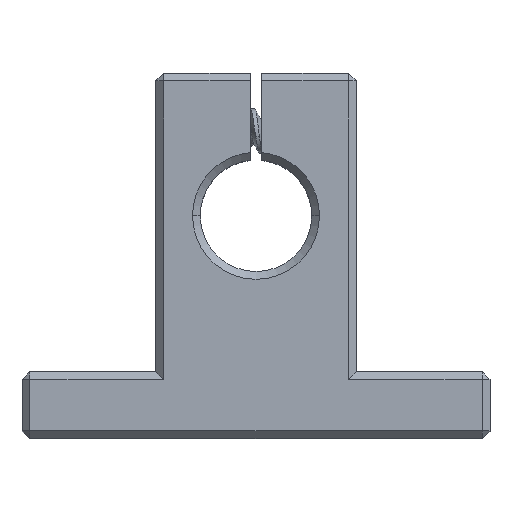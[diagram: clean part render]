
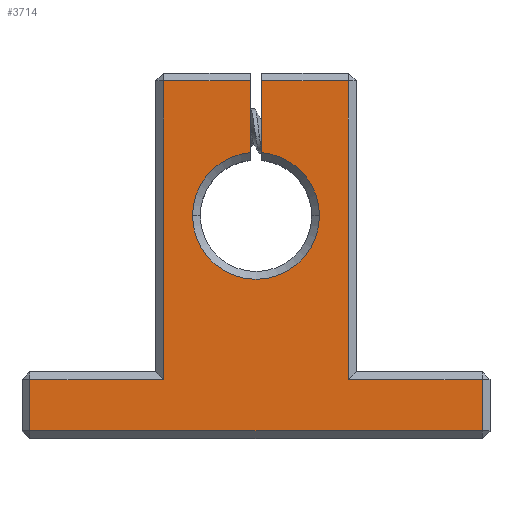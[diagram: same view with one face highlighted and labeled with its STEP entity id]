
A CAD part, top view. The second image highlights one B-rep face of the part: STEP entity #3714.
In plain terms, the highlighted planar face has unit normal (0, 0, 1).
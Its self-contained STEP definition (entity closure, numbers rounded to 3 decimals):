
#20 = CARTESIAN_POINT ( 'NONE',  ( -21., 5.3, 14. ) ) ;
#50 = EDGE_CURVE ( 'NONE', #4398, #502, #4135, .T. ) ;
#97 = CARTESIAN_POINT ( 'NONE',  ( 0.5, 25.678, 14. ) ) ;
#200 = VECTOR ( 'NONE', #5617, 1000. ) ;
#203 = DIRECTION ( 'NONE',  ( 0., 0., -1. ) ) ;
#342 = LINE ( 'NONE', #1608, #3188 ) ;
#360 = EDGE_CURVE ( 'NONE', #502, #2663, #6870, .T. ) ;
#412 = DIRECTION ( 'NONE',  ( 0., -1., 0. ) ) ;
#423 = CARTESIAN_POINT ( 'NONE',  ( 21., 0.7, 14. ) ) ;
#502 = VERTEX_POINT ( 'NONE', #3370 ) ;
#526 = CARTESIAN_POINT ( 'NONE',  ( 0., 20., 14. ) ) ;
#734 = VECTOR ( 'NONE', #3717, 1000. ) ;
#765 = AXIS2_PLACEMENT_3D ( 'NONE', #526, #4540, #1112 ) ;
#809 = LINE ( 'NONE', #2886, #5043 ) ;
#842 = EDGE_CURVE ( 'NONE', #2259, #1766, #873, .T. ) ;
#843 = DIRECTION ( 'NONE',  ( -1., 0., 0. ) ) ;
#873 = LINE ( 'NONE', #3208, #5289 ) ;
#983 = VERTEX_POINT ( 'NONE', #7263 ) ;
#993 = CARTESIAN_POINT ( 'NONE',  ( 0.5, 32.1, 14. ) ) ;
#1093 = ORIENTED_EDGE ( 'NONE', *, *, #842, .T. ) ;
#1108 = EDGE_CURVE ( 'NONE', #983, #6537, #342, .T. ) ;
#1112 = DIRECTION ( 'NONE',  ( 1., 0., 0. ) ) ;
#1119 = LINE ( 'NONE', #20, #2447 ) ;
#1210 = DIRECTION ( 'NONE',  ( 0., 1., 0. ) ) ;
#1237 = EDGE_CURVE ( 'NONE', #1766, #4503, #5913, .T. ) ;
#1546 = VECTOR ( 'NONE', #412, 1000. ) ;
#1608 = CARTESIAN_POINT ( 'NONE',  ( -9., 32.1, 14. ) ) ;
#1766 = VERTEX_POINT ( 'NONE', #97 ) ;
#1799 = CARTESIAN_POINT ( 'NONE',  ( 20.3, 5.3, 14. ) ) ;
#1839 = CARTESIAN_POINT ( 'NONE',  ( 20.3, 0.7, 14. ) ) ;
#1936 = VERTEX_POINT ( 'NONE', #6776 ) ;
#2019 = CARTESIAN_POINT ( 'NONE',  ( 0., 20., 14. ) ) ;
#2089 = EDGE_CURVE ( 'NONE', #3425, #4398, #6477, .T. ) ;
#2173 = DIRECTION ( 'NONE',  ( -1., 0., 0. ) ) ;
#2259 = VERTEX_POINT ( 'NONE', #993 ) ;
#2289 = EDGE_CURVE ( 'NONE', #4734, #3425, #6110, .T. ) ;
#2298 = CARTESIAN_POINT ( 'NONE',  ( 8.3, 32.8, 14. ) ) ;
#2426 = ORIENTED_EDGE ( 'NONE', *, *, #4979, .T. ) ;
#2447 = VECTOR ( 'NONE', #4034, 1000. ) ;
#2573 = DIRECTION ( 'NONE',  ( 0., 0., -1. ) ) ;
#2579 = DIRECTION ( 'NONE',  ( 0., 0., 1. ) ) ;
#2663 = VERTEX_POINT ( 'NONE', #3175 ) ;
#2826 = DIRECTION ( 'NONE',  ( 0., 1., 0. ) ) ;
#2859 = DIRECTION ( 'NONE',  ( 0., 1., 0. ) ) ;
#2886 = CARTESIAN_POINT ( 'NONE',  ( -0.5, 32.8, 14. ) ) ;
#3051 = LINE ( 'NONE', #3253, #1546 ) ;
#3083 = CARTESIAN_POINT ( 'NONE',  ( -8.3, 6., 14. ) ) ;
#3122 = CARTESIAN_POINT ( 'NONE',  ( 0.5, 32.1, 14. ) ) ;
#3175 = CARTESIAN_POINT ( 'NONE',  ( 8.3, 32.1, 14. ) ) ;
#3188 = VECTOR ( 'NONE', #2173, 1000. ) ;
#3208 = CARTESIAN_POINT ( 'NONE',  ( 0.5, 24.975, 14. ) ) ;
#3222 = ORIENTED_EDGE ( 'NONE', *, *, #6478, .T. ) ;
#3236 = CARTESIAN_POINT ( 'NONE',  ( -20.3, 5.3, 14. ) ) ;
#3249 = FACE_OUTER_BOUND ( 'NONE', #5083, .T. ) ;
#3253 = CARTESIAN_POINT ( 'NONE',  ( -20.3, 0., 14. ) ) ;
#3370 = CARTESIAN_POINT ( 'NONE',  ( 8.3, 5.3, 14. ) ) ;
#3425 = VERTEX_POINT ( 'NONE', #1839 ) ;
#3551 = EDGE_CURVE ( 'NONE', #4926, #7159, #5336, .T. ) ;
#3569 = CARTESIAN_POINT ( 'NONE',  ( 5.7, 20., 14. ) ) ;
#3628 = CARTESIAN_POINT ( 'NONE',  ( 0., 20., 14. ) ) ;
#3701 = CARTESIAN_POINT ( 'NONE',  ( -8.3, 32.1, 14. ) ) ;
#3714 = ADVANCED_FACE ( 'NONE', ( #3249 ), #4885, .T. ) ;
#3717 = DIRECTION ( 'NONE',  ( -1., 0., 0. ) ) ;
#3844 = AXIS2_PLACEMENT_3D ( 'NONE', #6029, #2573, #6585 ) ;
#4034 = DIRECTION ( 'NONE',  ( -1., 0., 0. ) ) ;
#4075 = ORIENTED_EDGE ( 'NONE', *, *, #360, .T. ) ;
#4096 = ORIENTED_EDGE ( 'NONE', *, *, #5130, .T. ) ;
#4135 = LINE ( 'NONE', #4258, #5658 ) ;
#4201 = DIRECTION ( 'NONE',  ( 1., 0., 0. ) ) ;
#4236 = ORIENTED_EDGE ( 'NONE', *, *, #5366, .T. ) ;
#4258 = CARTESIAN_POINT ( 'NONE',  ( 9., 5.3, 14. ) ) ;
#4398 = VERTEX_POINT ( 'NONE', #1799 ) ;
#4417 = EDGE_CURVE ( 'NONE', #1936, #4725, #1119, .T. ) ;
#4493 = ORIENTED_EDGE ( 'NONE', *, *, #2089, .T. ) ;
#4503 = VERTEX_POINT ( 'NONE', #3569 ) ;
#4540 = DIRECTION ( 'NONE',  ( 0., 0., -1. ) ) ;
#4725 = VERTEX_POINT ( 'NONE', #3236 ) ;
#4734 = VERTEX_POINT ( 'NONE', #7223 ) ;
#4850 = LINE ( 'NONE', #3083, #5060 ) ;
#4885 = PLANE ( 'NONE',  #5050 ) ;
#4926 = VERTEX_POINT ( 'NONE', #6240 ) ;
#4964 = EDGE_CURVE ( 'NONE', #4503, #4926, #6813, .T. ) ;
#4979 = EDGE_CURVE ( 'NONE', #2663, #2259, #5319, .T. ) ;
#5043 = VECTOR ( 'NONE', #1210, 1000. ) ;
#5050 = AXIS2_PLACEMENT_3D ( 'NONE', #2019, #2579, #6590 ) ;
#5060 = VECTOR ( 'NONE', #6520, 1000. ) ;
#5083 = EDGE_LOOP ( 'NONE', ( #1093, #5482, #6682, #6609, #4236, #6937, #3222, #7379, #4096, #5578, #4493, #6708, #4075, #2426 ) ) ;
#5130 = EDGE_CURVE ( 'NONE', #4725, #4734, #3051, .T. ) ;
#5133 = CARTESIAN_POINT ( 'NONE',  ( 20.3, 6., 14. ) ) ;
#5289 = VECTOR ( 'NONE', #6085, 1000. ) ;
#5319 = LINE ( 'NONE', #3122, #734 ) ;
#5336 = CIRCLE ( 'NONE', #7298, 5.7 ) ;
#5366 = EDGE_CURVE ( 'NONE', #7159, #983, #809, .T. ) ;
#5482 = ORIENTED_EDGE ( 'NONE', *, *, #1237, .T. ) ;
#5578 = ORIENTED_EDGE ( 'NONE', *, *, #2289, .T. ) ;
#5617 = DIRECTION ( 'NONE',  ( 1., 0., 0. ) ) ;
#5658 = VECTOR ( 'NONE', #843, 1000. ) ;
#5913 = CIRCLE ( 'NONE', #765, 5.7 ) ;
#5918 = VECTOR ( 'NONE', #2859, 1000. ) ;
#5939 = CARTESIAN_POINT ( 'NONE',  ( -0.5, 25.678, 14. ) ) ;
#6029 = CARTESIAN_POINT ( 'NONE',  ( 0., 20., 14. ) ) ;
#6085 = DIRECTION ( 'NONE',  ( 0., -1., 0. ) ) ;
#6110 = LINE ( 'NONE', #423, #200 ) ;
#6240 = CARTESIAN_POINT ( 'NONE',  ( -5.7, 20., 14. ) ) ;
#6303 = VECTOR ( 'NONE', #2826, 1000. ) ;
#6477 = LINE ( 'NONE', #5133, #6303 ) ;
#6478 = EDGE_CURVE ( 'NONE', #6537, #1936, #4850, .T. ) ;
#6520 = DIRECTION ( 'NONE',  ( 0., -1., 0. ) ) ;
#6537 = VERTEX_POINT ( 'NONE', #3701 ) ;
#6585 = DIRECTION ( 'NONE',  ( 1., 0., 0. ) ) ;
#6590 = DIRECTION ( 'NONE',  ( 1., 0., 0. ) ) ;
#6609 = ORIENTED_EDGE ( 'NONE', *, *, #3551, .T. ) ;
#6682 = ORIENTED_EDGE ( 'NONE', *, *, #4964, .T. ) ;
#6708 = ORIENTED_EDGE ( 'NONE', *, *, #50, .T. ) ;
#6776 = CARTESIAN_POINT ( 'NONE',  ( -8.3, 5.3, 14. ) ) ;
#6813 = CIRCLE ( 'NONE', #3844, 5.7 ) ;
#6870 = LINE ( 'NONE', #2298, #5918 ) ;
#6937 = ORIENTED_EDGE ( 'NONE', *, *, #1108, .T. ) ;
#7159 = VERTEX_POINT ( 'NONE', #5939 ) ;
#7223 = CARTESIAN_POINT ( 'NONE',  ( -20.3, 0.7, 14. ) ) ;
#7263 = CARTESIAN_POINT ( 'NONE',  ( -0.5, 32.1, 14. ) ) ;
#7298 = AXIS2_PLACEMENT_3D ( 'NONE', #3628, #203, #4201 ) ;
#7379 = ORIENTED_EDGE ( 'NONE', *, *, #4417, .T. ) ;
